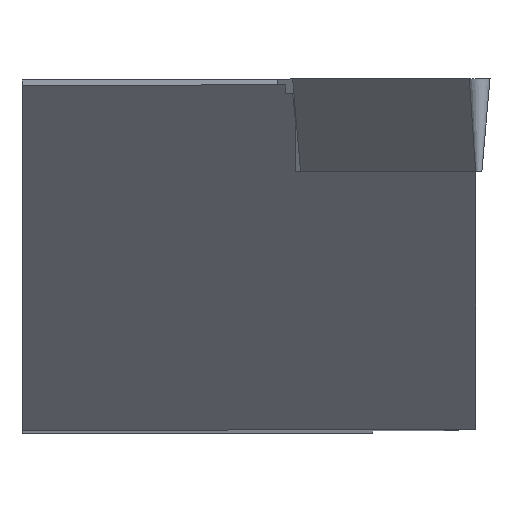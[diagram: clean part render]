
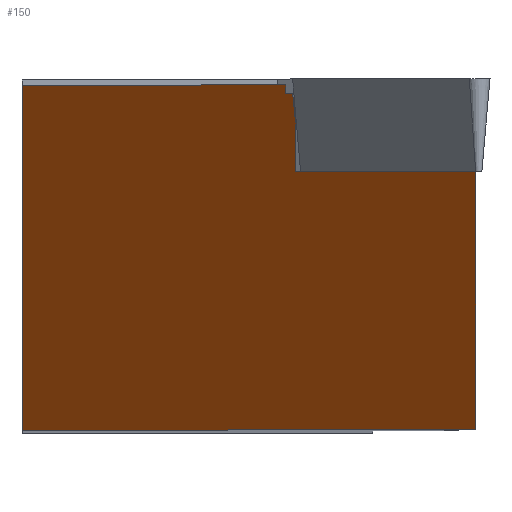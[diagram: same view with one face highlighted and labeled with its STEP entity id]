
A CAD part, top view. The second image highlights one B-rep face of the part: STEP entity #150.
In plain terms, the highlighted planar face has unit normal (-0.788, 0, 0.616).
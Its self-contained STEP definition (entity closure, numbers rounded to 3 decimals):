
#122=FACE_OUTER_BOUND('',#368,.T.);
#150=ADVANCED_FACE('',(#122),#183,.F.);
#183=PLANE('',#723);
#199=LINE('',#919,#270);
#207=LINE('',#935,#278);
#224=LINE('',#971,#295);
#227=LINE('',#977,#298);
#232=LINE('',#987,#303);
#239=LINE('',#1003,#310);
#240=LINE('',#1005,#311);
#241=LINE('',#1007,#312);
#242=LINE('',#1009,#313);
#270=VECTOR('',#757,1.);
#278=VECTOR('',#767,1.);
#295=VECTOR('',#796,1.);
#298=VECTOR('',#801,1.);
#303=VECTOR('',#810,1.);
#310=VECTOR('',#823,1.);
#311=VECTOR('',#826,1.);
#312=VECTOR('',#827,1.);
#313=VECTOR('',#828,1.);
#368=EDGE_LOOP('',(#458,#459,#460,#461,#462,#463,#464,#465,#466));
#458=ORIENTED_EDGE('',*,*,#659,.F.);
#459=ORIENTED_EDGE('',*,*,#660,.T.);
#460=ORIENTED_EDGE('',*,*,#661,.T.);
#461=ORIENTED_EDGE('',*,*,#624,.T.);
#462=ORIENTED_EDGE('',*,*,#616,.F.);
#463=ORIENTED_EDGE('',*,*,#658,.T.);
#464=ORIENTED_EDGE('',*,*,#649,.T.);
#465=ORIENTED_EDGE('',*,*,#644,.F.);
#466=ORIENTED_EDGE('',*,*,#641,.F.);
#560=VERTEX_POINT('',#918);
#561=VERTEX_POINT('',#920);
#568=VERTEX_POINT('',#936);
#578=VERTEX_POINT('',#966);
#580=VERTEX_POINT('',#970);
#582=VERTEX_POINT('',#975);
#586=VERTEX_POINT('',#988);
#592=VERTEX_POINT('',#1006);
#593=VERTEX_POINT('',#1008);
#616=EDGE_CURVE('',#560,#561,#199,.T.);
#624=EDGE_CURVE('',#568,#561,#207,.T.);
#641=EDGE_CURVE('',#580,#578,#224,.T.);
#644=EDGE_CURVE('',#578,#582,#227,.T.);
#649=EDGE_CURVE('',#586,#582,#232,.T.);
#658=EDGE_CURVE('',#560,#586,#239,.T.);
#659=EDGE_CURVE('',#592,#580,#240,.T.);
#660=EDGE_CURVE('',#592,#593,#241,.T.);
#661=EDGE_CURVE('',#593,#568,#242,.T.);
#723=AXIS2_PLACEMENT_3D('',#1010,#829,#830);
#757=DIRECTION('',(-0.616,0.,-0.788));
#767=DIRECTION('',(0.,-1.,0.));
#796=DIRECTION('',(0.093,-0.989,0.119));
#801=DIRECTION('',(0.,-1.,0.));
#810=DIRECTION('',(-0.616,0.,-0.788));
#823=DIRECTION('',(0.,1.,0.));
#826=DIRECTION('',(0.616,0.,0.788));
#827=DIRECTION('',(0.,1.,0.));
#828=DIRECTION('',(-0.616,0.,-0.788));
#829=DIRECTION('',(0.788,0.,-0.616));
#830=DIRECTION('',(-0.616,0.,-0.788));
#918=CARTESIAN_POINT('',(-0.486,-12.,-0.646));
#919=CARTESIAN_POINT('',(-28.,-12.,-35.863));
#920=CARTESIAN_POINT('',(-16.,-12.,-20.504));
#935=CARTESIAN_POINT('',(-16.,0.,-20.504));
#936=CARTESIAN_POINT('',(-16.,-0.2,-20.504));
#966=CARTESIAN_POINT('',(-6.632,-1.68,-8.513));
#970=CARTESIAN_POINT('',(-6.742,-0.5,-8.654));
#971=CARTESIAN_POINT('',(-6.907,1.25,-8.865));
#975=CARTESIAN_POINT('',(-6.632,-3.18,-8.513));
#977=CARTESIAN_POINT('',(-6.632,-3.18,-8.513));
#987=CARTESIAN_POINT('',(-5.166,-3.18,-6.637));
#988=CARTESIAN_POINT('',(-0.486,-3.18,-0.646));
#1003=CARTESIAN_POINT('',(-0.486,-12.,-0.646));
#1005=CARTESIAN_POINT('',(-28.,-0.5,-35.863));
#1006=CARTESIAN_POINT('',(-6.985,-0.5,-8.965));
#1007=CARTESIAN_POINT('',(-6.985,-12.,-8.965));
#1008=CARTESIAN_POINT('',(-6.985,-0.2,-8.965));
#1009=CARTESIAN_POINT('',(-28.,-0.2,-35.863));
#1010=CARTESIAN_POINT('',(-28.,-12.,-35.863));
